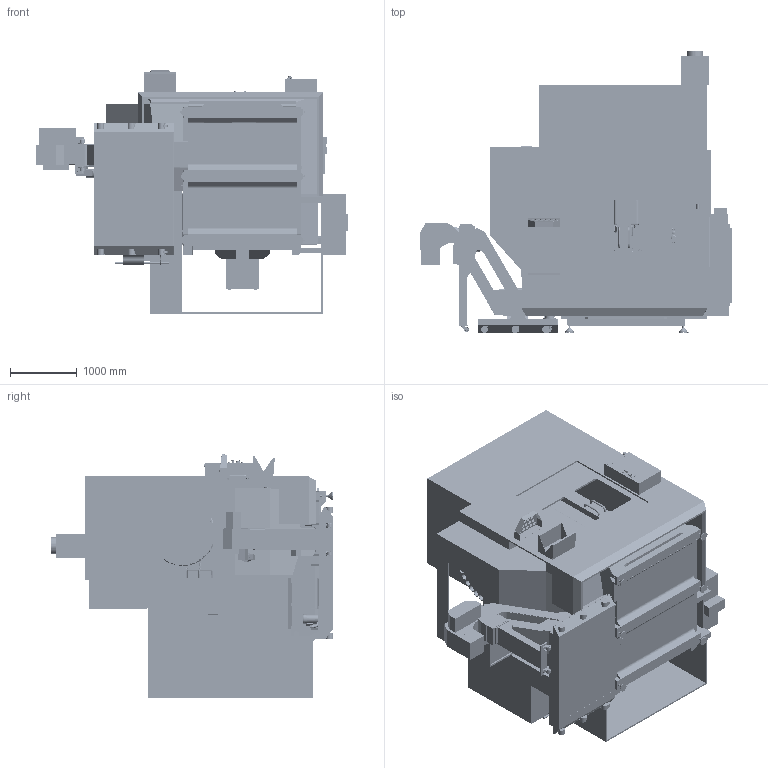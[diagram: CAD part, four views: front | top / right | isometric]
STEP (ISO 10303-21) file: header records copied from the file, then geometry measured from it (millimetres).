
FILE_DESCRIPTION (( 'STEP AP203' ), '1' );
FILE_NAME ('UMC-1250_6_2025.STEP', '2025-06-20T22:58:38', ( '' ), ( '' ), 'SwSTEP 2.0', 'SolidWorks 2023', '' );
FILE_SCHEMA (( 'CONFIG_CONTROL_DESIGN' ));
Length unit declared in the file: inch
Products named in the file (25): UMC 1250- Auto Doors; UMC 1250- 30 Pkt Tool Changer Arm Up; UMC 1250- Blank Platter; UMC 1250- Anchor Pattern; UMC 1250- 30 Pkt Tool Changer; UMC-1250_6_2025; UMC 1250- Enclosure; UMC 1250- 95 Gallon Tank; UMC 1250- Base and Bridge; UMC 1250- 30 Pkt Tool Changer Arm Down; UMC 1250- X Axis; UMC 1250- Standard Conveyor; UMC 1250- 55 Gallon Tank; UMC 1250- Auto Window; UMC 1250- Z Axis; UMC 1250- Leveling Pads; UMC 1250- T Slot Platter; UMC 1250- Wips Probe; UMC 1250- CDF Conveyor; UMC 1250- Waycover; UMC 1250- Filter Conveyor; UMC 1250- Trunnion; UMC 1250- Y Axis; UMC 1250- Spindle Head; UMC 1250- Control Panel
Assembly tree (24 placements, depth 2):
  UMC-1250_6_2025
    UMC 1250- Anchor Pattern
    UMC 1250- Leveling Pads
    UMC 1250- Base and Bridge
    UMC 1250- Trunnion
    UMC 1250- Wips Probe
    UMC 1250- Blank Platter
    UMC 1250- T Slot Platter
    UMC 1250- X Axis
    UMC 1250- Y Axis
    UMC 1250- Z Axis
    UMC 1250- Spindle Head
    UMC 1250- Waycover
    UMC 1250- 30 Pkt Tool Changer
    UMC 1250- 30 Pkt Tool Changer Arm Up
    UMC 1250- 30 Pkt Tool Changer Arm Down
    UMC 1250- Enclosure
    UMC 1250- Auto Doors
    UMC 1250- Auto Window
    UMC 1250- Control Panel
    UMC 1250- Standard Conveyor
    UMC 1250- Filter Conveyor
    UMC 1250- CDF Conveyor
    UMC 1250- 55 Gallon Tank
    UMC 1250- 95 Gallon Tank
Bounding box: 4673.26 x 4236.38 x 3662.31 mm (x, y, z)
Volume: 7898040222 mm3; surface area: 203340833.1 mm2
Topology: 62 solids, 82 shells, 8644 faces, 23084 edges, 14572 vertices
Faces by surface type: plane 4880, cylinder 2101, bspline 722, cone 666, torus 186, sphere 89
Entity records: 323737 total; most frequent: CARTESIAN_POINT 110587, ORIENTED_EDGE 45848, DIRECTION 41376, EDGE_CURVE 22924, VECTOR 14742, LINE 14742, VERTEX_POINT 14568, AXIS2_PLACEMENT_3D 13317
